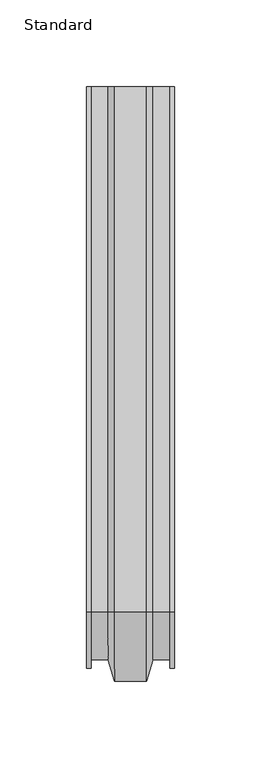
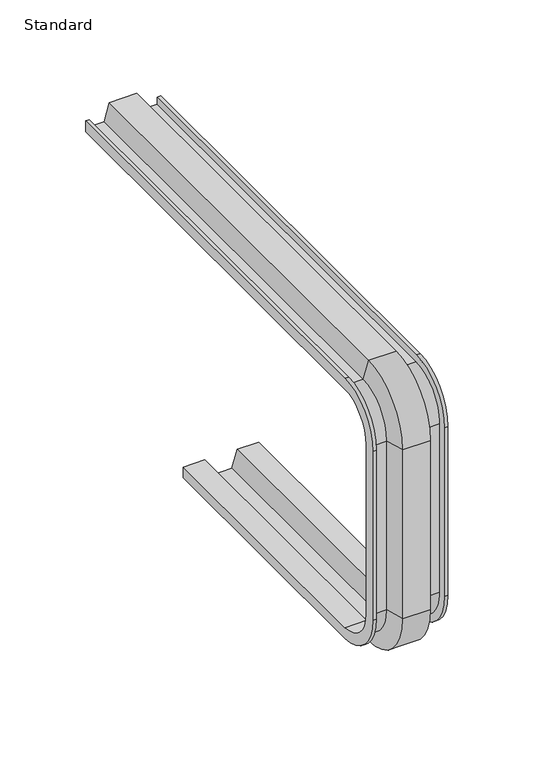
"""IFC4 building model written with IfcOpenShell, lengths in millimetres: electric appliance geometry, Bracket-C-Cablofil-Standard : Standard."""

from ifc_helpers import new_model, si_unit, frame, origin, place, context, project, spatial, polyline, circle_curve, source, transform, mapped, element, save
from ifc_brep_helpers import plane_surface, cylinder_surface, revolved_surface, advanced_brep


def standard_b028e5ef(model_context):
    return source(origin(), model_context, "Body", "AdvancedBrep", [
        advanced_brep(
        [(-25.4, 57.15, -170.053), (-10.9449608, 57.15, -170.053), (-7.3761277, 57.15, -182.499), (7.3761277, 57.15, -182.499), (10.9449608, 57.15, -170.053), (25.4, 57.15, -170.053), (25.4, 57.15, -177.673), (22.86, 57.15, -177.673), (22.86, 57.15, -172.593), (12.8589881, 57.15, -172.593), (9.290155, 57.15, -185.039), (-9.290155, 57.15, -185.039), (-12.8589881, 57.15, -172.593), (-22.86, 57.15, -172.593), (-22.86, 57.15, -177.673), (-25.4, 57.15, -177.673), (-25.4, 171.45, 0.0), (-25.4, 171.45, 7.62), (-22.86, 171.45, 7.62), (-22.86, 171.45, 2.54), (-12.8589881, 171.45, 2.54), (-9.290155, 171.45, 14.986), (9.290155, 171.45, 14.986), (12.8589881, 171.45, 2.54), (22.86, 171.45, 2.54), (22.86, 171.45, 7.62), (25.4, 171.45, 7.62), (25.4, 171.45, 0.0), (10.9449608, 171.45, 0.0), (7.3761277, 171.45, 12.446), (-7.3761277, 171.45, 12.446), (-10.9449608, 171.45, 0.0), (-25.4, -131.5836499, -170.053), (-10.9449608, -131.5836499, -170.053), (-7.3761277, -131.5836499, -182.499), (7.3761277, -131.5836499, -182.499), (10.9449608, -131.5836499, -170.053), (25.4, -131.5836499, -170.053), (25.4, -156.464, -145.1726499), (25.4, -156.464, -24.8803501), (25.4, -131.5836499, 0.0), (25.4, -131.5836499, 7.62), (25.4, -164.084, -24.8803501), (25.4, -164.084, -145.1726499), (25.4, -131.5836499, -177.673), (22.86, -131.5836499, -177.673), (22.86, -164.084, -145.1726499), (22.86, -164.084, -24.8803501), (22.86, -131.5836499, 7.62), (22.86, -131.5836499, 2.54), (22.86, -159.004, -24.8803501), (22.86, -159.004, -145.1726499), (22.86, -131.5836499, -172.593), (12.8589881, -131.5836499, -172.593), (9.290155, -131.5836499, -185.039), (-9.290155, -131.5836499, -185.039), (-12.8589881, -131.5836499, -172.593), (-22.86, -131.5836499, -172.593), (-22.86, -159.004, -145.1726499), (-22.86, -159.004, -24.8803501), (-22.86, -131.5836499, 2.54), (-22.86, -131.5836499, 7.62), (-22.86, -164.084, -24.8803501), (-22.86, -164.084, -145.1726499), (-22.86, -131.5836499, -177.673), (-25.4, -131.5836499, -177.673), (-25.4, -164.084, -145.1726499), (-25.4, -164.084, -24.8803501), (-25.4, -131.5836499, 7.62), (-25.4, -131.5836499, 0.0), (-25.4, -156.464, -24.8803501), (-25.4, -156.464, -145.1726499), (-10.9449608, -156.464, -145.1726499), (-7.3761277, -168.91, -145.1726499), (7.3761277, -168.91, -145.1726499), (10.9449608, -156.464, -145.1726499), (12.8589881, -159.004, -145.1726499), (9.290155, -171.45, -145.1726499), (-9.290155, -171.45, -145.1726499), (-12.8589881, -159.004, -145.1726499), (-10.9449608, -156.464, -24.8803501), (-7.3761277, -168.91, -24.8803501), (7.3761277, -168.91, -24.8803501), (10.9449608, -156.464, -24.8803501), (12.8589881, -159.004, -24.8803501), (9.290155, -171.45, -24.8803501), (-9.290155, -171.45, -24.8803501), (-12.8589881, -159.004, -24.8803501), (-10.9449608, -131.5836499, 0.0), (-7.3761277, -131.5836499, 12.446), (7.3761277, -131.5836499, 12.446), (10.9449608, -131.5836499, 0.0), (12.8589881, -131.5836499, 2.54), (9.290155, -131.5836499, 14.986), (-9.290155, -131.5836499, 14.986), (-12.8589881, -131.5836499, 2.54)],
        [
            (0, 1),
            (1, 2),
            (2, 3),
            (3, 4),
            (4, 5),
            (5, 6),
            (6, 7),
            (7, 8),
            (8, 9),
            (9, 10),
            (10, 11),
            (11, 12),
            (12, 13),
            (13, 14),
            (14, 15),
            (15, 0),
            (16, 17),
            (17, 18),
            (18, 19),
            (19, 20),
            (20, 21),
            (21, 22),
            (22, 23),
            (23, 24),
            (24, 25),
            (25, 26),
            (26, 27),
            (27, 28),
            (28, 29),
            (29, 30),
            (30, 31),
            (31, 16),
            (0, 32),
            (32, 33),
            (33, 1),
            (33, 34),
            (34, 2),
            (34, 35),
            (35, 3),
            (35, 36),
            (36, 4),
            (36, 37),
            (37, 5),
            (37, 38, circle_curve(frame((25.4, -131.5836499, -145.1726499), z_axis=(-1.0, 0.0, 0.0), x_axis=(0.0, 0.0, -1.0)), 24.8803501)),
            (38, 39),
            (39, 40, circle_curve(frame((25.4, -131.5836499, -24.8803501), z_axis=(-1.0, 0.0, 0.0), x_axis=(0.0, -1.0, 0.0)), 24.8803501)),
            (40, 27),
            (26, 41),
            (41, 42, circle_curve(frame((25.4, -131.5836499, -24.8803501), z_axis=(1.0, 0.0, 0.0), x_axis=(0.0, -1.0, 0.0)), 32.5003501)),
            (42, 43),
            (43, 44, circle_curve(frame((25.4, -131.5836499, -145.1726499), z_axis=(1.0, 0.0, 0.0), x_axis=(0.0, 0.0, -1.0)), 32.5003501)),
            (44, 6),
            (44, 45),
            (45, 7),
            (45, 46, circle_curve(frame((22.86, -131.5836499, -145.1726499), z_axis=(-1.0, 0.0, 0.0), x_axis=(0.0, 0.0, -1.0)), 32.5003501)),
            (46, 47),
            (47, 48, circle_curve(frame((22.86, -131.5836499, -24.8803501), z_axis=(-1.0, 0.0, 0.0), x_axis=(0.0, -1.0, 0.0)), 32.5003501)),
            (48, 25),
            (24, 49),
            (49, 50, circle_curve(frame((22.86, -131.5836499, -24.8803501), z_axis=(1.0, 0.0, 0.0), x_axis=(0.0, -1.0, 0.0)), 27.4203501)),
            (50, 51),
            (51, 52, circle_curve(frame((22.86, -131.5836499, -145.1726499), z_axis=(1.0, 0.0, 0.0), x_axis=(0.0, 0.0, -1.0)), 27.4203501)),
            (52, 8),
            (52, 53),
            (53, 9),
            (53, 54),
            (54, 10),
            (54, 55),
            (55, 11),
            (55, 56),
            (56, 12),
            (56, 57),
            (57, 13),
            (57, 58, circle_curve(frame((-22.86, -131.5836499, -145.1726499), z_axis=(-1.0, 0.0, 0.0), x_axis=(0.0, 0.0, -1.0)), 27.4203501)),
            (58, 59),
            (59, 60, circle_curve(frame((-22.86, -131.5836499, -24.8803501), z_axis=(-1.0, 0.0, 0.0), x_axis=(0.0, -1.0, 0.0)), 27.4203501)),
            (60, 19),
            (18, 61),
            (61, 62, circle_curve(frame((-22.86, -131.5836499, -24.8803501), z_axis=(1.0, 0.0, 0.0), x_axis=(0.0, -1.0, 0.0)), 32.5003501)),
            (62, 63),
            (63, 64, circle_curve(frame((-22.86, -131.5836499, -145.1726499), z_axis=(1.0, 0.0, 0.0), x_axis=(0.0, 0.0, -1.0)), 32.5003501)),
            (64, 14),
            (64, 65),
            (65, 15),
            (65, 66, circle_curve(frame((-25.4, -131.5836499, -145.1726499), z_axis=(-1.0, 0.0, 0.0), x_axis=(0.0, 0.0, -1.0)), 32.5003501)),
            (66, 67),
            (67, 68, circle_curve(frame((-25.4, -131.5836499, -24.8803501), z_axis=(-1.0, 0.0, 0.0), x_axis=(0.0, -1.0, 0.0)), 32.5003501)),
            (68, 17),
            (16, 69),
            (69, 70, circle_curve(frame((-25.4, -131.5836499, -24.8803501), z_axis=(1.0, 0.0, 0.0), x_axis=(0.0, -1.0, 0.0)), 24.8803501)),
            (70, 71),
            (71, 32, circle_curve(frame((-25.4, -131.5836499, -145.1726499), z_axis=(1.0, 0.0, 0.0), x_axis=(0.0, 0.0, -1.0)), 24.8803501)),
            (72, 33, circle_curve(frame((-10.9449608, -131.5836499, -145.1726499), z_axis=(1.0, 0.0, 0.0), x_axis=(0.0, 0.0, -1.0)), 24.8803501)),
            (71, 72),
            (73, 34, circle_curve(frame((-7.3761277, -131.5836499, -145.1726499), z_axis=(1.0, 0.0, 0.0), x_axis=(0.0, 0.0, -1.0)), 37.3263501)),
            (72, 73),
            (74, 35, circle_curve(frame((7.3761277, -131.5836499, -145.1726499), z_axis=(1.0, 0.0, 0.0), x_axis=(0.0, 0.0, -1.0)), 37.3263501)),
            (73, 74),
            (75, 36, circle_curve(frame((10.9449608, -131.5836499, -145.1726499), z_axis=(1.0, 0.0, 0.0), x_axis=(0.0, 0.0, -1.0)), 24.8803501)),
            (74, 75),
            (75, 38),
            (43, 46),
            (76, 53, circle_curve(frame((12.8589881, -131.5836499, -145.1726499), z_axis=(1.0, 0.0, 0.0), x_axis=(0.0, 0.0, -1.0)), 27.4203501)),
            (51, 76),
            (77, 54, circle_curve(frame((9.290155, -131.5836499, -145.1726499), z_axis=(1.0, 0.0, 0.0), x_axis=(0.0, 0.0, -1.0)), 39.8663501)),
            (76, 77),
            (78, 55, circle_curve(frame((-9.290155, -131.5836499, -145.1726499), z_axis=(1.0, 0.0, 0.0), x_axis=(0.0, 0.0, -1.0)), 39.8663501)),
            (77, 78),
            (79, 56, circle_curve(frame((-12.8589881, -131.5836499, -145.1726499), z_axis=(1.0, 0.0, 0.0), x_axis=(0.0, 0.0, -1.0)), 27.4203501)),
            (78, 79),
            (79, 58),
            (63, 66),
            (70, 80),
            (80, 72),
            (80, 81),
            (81, 73),
            (81, 82),
            (82, 74),
            (82, 83),
            (83, 75),
            (83, 39),
            (42, 47),
            (50, 84),
            (84, 76),
            (84, 85),
            (85, 77),
            (85, 86),
            (86, 78),
            (86, 87),
            (87, 79),
            (87, 59),
            (62, 67),
            (88, 80, circle_curve(frame((-10.9449608, -131.5836499, -24.8803501), z_axis=(1.0, 0.0, 0.0), x_axis=(0.0, -1.0, 0.0)), 24.8803501)),
            (69, 88),
            (89, 81, circle_curve(frame((-7.3761277, -131.5836499, -24.8803501), z_axis=(1.0, 0.0, 0.0), x_axis=(0.0, -1.0, 0.0)), 37.3263501)),
            (88, 89),
            (90, 82, circle_curve(frame((7.3761277, -131.5836499, -24.8803501), z_axis=(1.0, 0.0, 0.0), x_axis=(0.0, -1.0, 0.0)), 37.3263501)),
            (89, 90),
            (91, 83, circle_curve(frame((10.9449608, -131.5836499, -24.8803501), z_axis=(1.0, 0.0, 0.0), x_axis=(0.0, -1.0, 0.0)), 24.8803501)),
            (90, 91),
            (91, 40),
            (41, 48),
            (92, 84, circle_curve(frame((12.8589881, -131.5836499, -24.8803501), z_axis=(1.0, 0.0, 0.0), x_axis=(0.0, -1.0, 0.0)), 27.4203501)),
            (49, 92),
            (93, 85, circle_curve(frame((9.290155, -131.5836499, -24.8803501), z_axis=(1.0, 0.0, 0.0), x_axis=(0.0, -1.0, 0.0)), 39.8663501)),
            (92, 93),
            (94, 86, circle_curve(frame((-9.290155, -131.5836499, -24.8803501), z_axis=(1.0, 0.0, 0.0), x_axis=(0.0, -1.0, 0.0)), 39.8663501)),
            (93, 94),
            (95, 87, circle_curve(frame((-12.8589881, -131.5836499, -24.8803501), z_axis=(1.0, 0.0, 0.0), x_axis=(0.0, -1.0, 0.0)), 27.4203501)),
            (94, 95),
            (95, 60),
            (61, 68),
            (31, 88),
            (30, 89),
            (29, 90),
            (28, 91),
            (23, 92),
            (22, 93),
            (21, 94),
            (20, 95),
        ],
        [
            plane_surface(frame((0.0, 57.15, -185.039), z_axis=(0.0, 1.0, 0.0), x_axis=(1.0, 0.0, 0.0))),
            plane_surface(frame((0.0, 171.45, 14.986), z_axis=(0.0, 1.0, 0.0), x_axis=(1.0, 0.0, 0.0))),
            plane_surface(frame((-25.4, 57.15, -170.053), z_axis=(0.0, 0.0, 1.0), x_axis=(0.0, -1.0, 0.0))),
            plane_surface(frame((-10.9449608, 57.15, -170.053), z_axis=(0.9612616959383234, 0.0, 0.2756373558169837), x_axis=(0.0, -1.0, 0.0))),
            plane_surface(frame((-7.3761277, 57.15, -182.499), z_axis=(0.0, 0.0, 1.0), x_axis=(0.0, -1.0, 0.0))),
            plane_surface(frame((7.3761277, 57.15, -182.499), z_axis=(-0.9612616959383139, 0.0, 0.2756373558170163), x_axis=(0.0, -1.0, 0.0))),
            plane_surface(frame((10.9449608, 57.15, -170.053), z_axis=(0.0, 0.0, 1.0), x_axis=(0.0, -1.0, 0.0))),
            plane_surface(frame((25.4, 57.15, -170.053), z_axis=(1.0, 0.0, 0.0), x_axis=(0.0, -1.0, 0.0))),
            plane_surface(frame((25.4, 57.15, -177.673), z_axis=(0.0, 0.0, -1.0), x_axis=(0.0, -1.0, 0.0))),
            plane_surface(frame((22.86, 57.15, -177.673), z_axis=(-1.0, 0.0, 0.0), x_axis=(0.0, -1.0, 0.0))),
            plane_surface(frame((22.86, 57.15, -172.593), z_axis=(0.0, 0.0, -1.0), x_axis=(0.0, -1.0, 0.0))),
            plane_surface(frame((12.8589881, 57.15, -172.593), z_axis=(0.9612616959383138, 0.0, -0.27563735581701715), x_axis=(0.0, -1.0, 0.0))),
            plane_surface(frame((9.290155, 57.15, -185.039), z_axis=(0.0, 0.0, -1.0), x_axis=(0.0, -1.0, 0.0))),
            plane_surface(frame((-9.290155, 57.15, -185.039), z_axis=(-0.9612616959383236, 0.0, -0.27563735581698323), x_axis=(0.0, -1.0, 0.0))),
            plane_surface(frame((-12.8589881, 57.15, -172.593), z_axis=(0.0, 0.0, -1.0), x_axis=(0.0, -1.0, 0.0))),
            plane_surface(frame((-22.86, 57.15, -172.593), z_axis=(1.0, 0.0, 0.0), x_axis=(0.0, -1.0, 0.0))),
            plane_surface(frame((-22.86, 57.15, -177.673), z_axis=(0.0, 0.0, -1.0), x_axis=(0.0, -1.0, 0.0))),
            plane_surface(frame((-25.4, 57.15, -177.673), z_axis=(-1.0, 0.0, 0.0), x_axis=(0.0, -1.0, 0.0))),
            revolved_surface(polyline([(-25.4, -131.5836499, -170.053), (-10.9449608, -131.5836499, -170.053)]), (0.0, -131.5836499, -145.1726499), (-1.0, 0.0, 0.0)),
            revolved_surface(polyline([(-10.9449608, -131.5836499, -170.053), (-7.3761277, -131.5836499, -182.499)]), (0.0, -131.5836499, -145.1726499), (-1.0, 0.0, 0.0)),
            revolved_surface(polyline([(-7.3761277, -131.5836499, -182.49900000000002), (7.3761277, -131.5836499, -182.49900000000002)]), (0.0, -131.5836499, -145.1726499), (-1.0, 0.0, 0.0)),
            revolved_surface(polyline([(7.3761277, -131.5836499, -182.499), (10.9449608, -131.5836499, -170.053)]), (0.0, -131.5836499, -145.1726499), (-1.0, 0.0, 0.0)),
            revolved_surface(polyline([(10.9449608, -131.5836499, -170.053), (25.4, -131.5836499, -170.053)]), (0.0, -131.5836499, -145.1726499), (-1.0, 0.0, 0.0)),
            cylinder_surface(frame((0.0, -131.5836499, -145.1726499), z_axis=(-1.0, 0.0, 0.0), x_axis=(0.0, 0.0, -1.0)), 32.5003501),
            cylinder_surface(frame((0.0, -131.5836499, -145.1726499), z_axis=(-1.0, 0.0, 0.0), x_axis=(0.0, 0.0, -1.0)), 27.4203501),
            revolved_surface(polyline([(12.8589881, -131.5836499, -172.593), (9.290155, -131.5836499, -185.039)]), (0.0, -131.5836499, -145.1726499), (-1.0, 0.0, 0.0)),
            cylinder_surface(frame((0.0, -131.5836499, -145.1726499), z_axis=(-1.0, 0.0, 0.0), x_axis=(0.0, 0.0, -1.0)), 39.8663501),
            revolved_surface(polyline([(-9.290155, -131.5836499, -185.039), (-12.8589881, -131.5836499, -172.593)]), (0.0, -131.5836499, -145.1726499), (-1.0, 0.0, 0.0)),
            plane_surface(frame((-25.4, -156.464, -145.1726499), z_axis=(0.0, 1.0, 0.0), x_axis=(0.0, 0.0, 1.0))),
            plane_surface(frame((-10.9449608, -156.464, -145.1726499), z_axis=(0.9612616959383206, 0.27563735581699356, 0.0), x_axis=(0.0, 0.0, 1.0))),
            plane_surface(frame((-7.3761277, -168.91, -145.1726499), z_axis=(0.0, 1.0, 0.0), x_axis=(0.0, 0.0, 1.0))),
            plane_surface(frame((7.3761277, -168.91, -145.1726499), z_axis=(-0.9612616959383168, 0.27563735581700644, 0.0), x_axis=(0.0, 0.0, 1.0))),
            plane_surface(frame((10.9449608, -156.464, -145.1726499), z_axis=(0.0, 1.0, 0.0), x_axis=(0.0, 0.0, 1.0))),
            plane_surface(frame((25.4, -164.084, -145.1726499), z_axis=(0.0, -1.0, 0.0), x_axis=(0.0, 0.0, 1.0))),
            plane_surface(frame((22.86, -159.004, -145.1726499), z_axis=(0.0, -1.0, 0.0), x_axis=(0.0, 0.0, 1.0))),
            plane_surface(frame((12.8589881, -159.004, -145.1726499), z_axis=(0.9612616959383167, -0.27563735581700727, 0.0), x_axis=(0.0, 0.0, 1.0))),
            plane_surface(frame((9.290155, -171.45, -145.1726499), z_axis=(0.0, -1.0, 0.0), x_axis=(0.0, 0.0, 1.0))),
            plane_surface(frame((-9.290155, -171.45, -145.1726499), z_axis=(-0.9612616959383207, -0.2756373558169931, 0.0), x_axis=(0.0, 0.0, 1.0))),
            plane_surface(frame((-12.8589881, -159.004, -145.1726499), z_axis=(0.0, -1.0, 0.0), x_axis=(0.0, 0.0, 1.0))),
            plane_surface(frame((-22.86, -164.084, -145.1726499), z_axis=(0.0, -1.0, 0.0), x_axis=(0.0, 0.0, 1.0))),
            revolved_surface(polyline([(-25.4, -156.464, -24.8803501), (-10.9449608, -156.464, -24.8803501)]), (0.0, -131.5836499, -24.8803501), (-1.0, 0.0, 0.0)),
            revolved_surface(polyline([(-10.9449608, -156.464, -24.8803501), (-7.3761277, -168.91, -24.8803501)]), (0.0, -131.5836499, -24.8803501), (-1.0, 0.0, 0.0)),
            revolved_surface(polyline([(-7.3761277, -168.91000000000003, -24.8803501), (7.3761277, -168.91000000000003, -24.8803501)]), (0.0, -131.5836499, -24.8803501), (-1.0, 0.0, 0.0)),
            revolved_surface(polyline([(7.3761277, -168.91, -24.8803501), (10.9449608, -156.464, -24.8803501)]), (0.0, -131.5836499, -24.8803501), (-1.0, 0.0, 0.0)),
            revolved_surface(polyline([(10.9449608, -156.464, -24.8803501), (25.4, -156.464, -24.8803501)]), (0.0, -131.5836499, -24.8803501), (-1.0, 0.0, 0.0)),
            cylinder_surface(frame((0.0, -131.5836499, -24.8803501), z_axis=(-1.0, 0.0, 0.0), x_axis=(0.0, -1.0, 0.0)), 32.5003501),
            cylinder_surface(frame((0.0, -131.5836499, -24.8803501), z_axis=(-1.0, 0.0, 0.0), x_axis=(0.0, -1.0, 0.0)), 27.4203501),
            revolved_surface(polyline([(12.8589881, -159.004, -24.8803501), (9.290155, -171.45, -24.8803501)]), (0.0, -131.5836499, -24.8803501), (-1.0, 0.0, 0.0)),
            cylinder_surface(frame((0.0, -131.5836499, -24.8803501), z_axis=(-1.0, 0.0, 0.0), x_axis=(0.0, -1.0, 0.0)), 39.8663501),
            revolved_surface(polyline([(-9.290155, -171.45, -24.8803501), (-12.8589881, -159.004, -24.8803501)]), (0.0, -131.5836499, -24.8803501), (-1.0, 0.0, 0.0)),
            plane_surface(frame((-25.4, -131.5836499, 0.0), z_axis=(0.0, 0.0, -1.0), x_axis=(0.0, 1.0, 0.0))),
            plane_surface(frame((-10.9449608, -131.5836499, 0.0), z_axis=(0.9612616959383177, 0.0, -0.27563735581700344), x_axis=(0.0, 1.0, 0.0))),
            plane_surface(frame((-7.3761277, -131.5836499, 12.446), z_axis=(0.0, 0.0, -1.0), x_axis=(0.0, 1.0, 0.0))),
            plane_surface(frame((7.3761277, -131.5836499, 12.446), z_axis=(-0.9612616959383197, 0.0, -0.27563735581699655), x_axis=(0.0, 1.0, 0.0))),
            plane_surface(frame((10.9449608, -131.5836499, 0.0), z_axis=(0.0, 0.0, -1.0), x_axis=(0.0, 1.0, 0.0))),
            plane_surface(frame((25.4, -131.5836499, 7.62), z_axis=(0.0, 0.0, 1.0), x_axis=(0.0, 1.0, 0.0))),
            plane_surface(frame((22.86, -131.5836499, 2.54), z_axis=(0.0, 0.0, 1.0), x_axis=(0.0, 1.0, 0.0))),
            plane_surface(frame((12.8589881, -131.5836499, 2.54), z_axis=(0.9612616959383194, 0.0, 0.2756373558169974), x_axis=(0.0, 1.0, 0.0))),
            plane_surface(frame((9.290155, -131.5836499, 14.986), z_axis=(0.0, 0.0, 1.0), x_axis=(0.0, 1.0, 0.0))),
            plane_surface(frame((-9.290155, -131.5836499, 14.986), z_axis=(-0.9612616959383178, 0.0, 0.275637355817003), x_axis=(0.0, 1.0, 0.0))),
            plane_surface(frame((-12.8589881, -131.5836499, 2.54), z_axis=(0.0, 0.0, 1.0), x_axis=(0.0, 1.0, 0.0))),
            plane_surface(frame((-22.86, -131.5836499, 7.62), z_axis=(0.0, 0.0, 1.0), x_axis=(0.0, 1.0, 0.0))),
        ],
        [
            (0, [[1, 2, 3, 4, 5, 6, 7, 8, 9, 10, 11, 12, 13, 14, 15, 16]]),
            (1, [[17, 18, 19, 20, 21, 22, 23, 24, 25, 26, 27, 28, 29, 30, 31, 32]]),
            (2, [[-1, 33, 34, 35]]),
            (3, [[-2, -35, 36, 37]]),
            (4, [[-3, -37, 38, 39]]),
            (5, [[-4, -39, 40, 41]]),
            (6, [[-5, -41, 42, 43]]),
            (7, [[-6, -43, 44, 45, 46, 47, -27, 48, 49, 50, 51, 52]]),
            (8, [[-7, -52, 53, 54]]),
            (9, [[-8, -54, 55, 56, 57, 58, -25, 59, 60, 61, 62, 63]]),
            (10, [[-9, -63, 64, 65]]),
            (11, [[-10, -65, 66, 67]]),
            (12, [[-11, -67, 68, 69]]),
            (13, [[-12, -69, 70, 71]]),
            (14, [[-13, -71, 72, 73]]),
            (15, [[-14, -73, 74, 75, 76, 77, -19, 78, 79, 80, 81, 82]]),
            (16, [[-15, -82, 83, 84]]),
            (17, [[-16, -84, 85, 86, 87, 88, -17, 89, 90, 91, 92, -33]]),
            (18, [[93, -34, -92, 94]]),
            (19, [[95, -36, -93, 96]]),
            (20, [[97, -38, -95, 98]]),
            (21, [[99, -40, -97, 100]]),
            (22, [[-44, -42, -99, 101]]),
            (23, [[-55, -53, -51, 102]]),
            (24, [[103, -64, -62, 104]]),
            (25, [[105, -66, -103, 106]]),
            (26, [[107, -68, -105, 108]]),
            (27, [[109, -70, -107, 110]]),
            (24, [[-74, -72, -109, 111]]),
            (23, [[-85, -83, -81, 112]]),
            (28, [[-94, -91, 113, 114]]),
            (29, [[-96, -114, 115, 116]]),
            (30, [[-98, -116, 117, 118]]),
            (31, [[-100, -118, 119, 120]]),
            (32, [[-101, -120, 121, -45]]),
            (33, [[-102, -50, 122, -56]]),
            (34, [[-104, -61, 123, 124]]),
            (35, [[-106, -124, 125, 126]]),
            (36, [[-108, -126, 127, 128]]),
            (37, [[-110, -128, 129, 130]]),
            (38, [[-111, -130, 131, -75]]),
            (39, [[-112, -80, 132, -86]]),
            (40, [[133, -113, -90, 134]]),
            (41, [[135, -115, -133, 136]]),
            (42, [[137, -117, -135, 138]]),
            (43, [[139, -119, -137, 140]]),
            (44, [[-46, -121, -139, 141]]),
            (45, [[-57, -122, -49, 142]]),
            (46, [[143, -123, -60, 144]]),
            (47, [[145, -125, -143, 146]]),
            (48, [[147, -127, -145, 148]]),
            (49, [[149, -129, -147, 150]]),
            (46, [[-76, -131, -149, 151]]),
            (45, [[-87, -132, -79, 152]]),
            (50, [[-134, -89, -32, 153]]),
            (51, [[-136, -153, -31, 154]]),
            (52, [[-138, -154, -30, 155]]),
            (53, [[-140, -155, -29, 156]]),
            (54, [[-141, -156, -28, -47]]),
            (55, [[-142, -48, -26, -58]]),
            (56, [[-144, -59, -24, 157]]),
            (57, [[-146, -157, -23, 158]]),
            (58, [[-148, -158, -22, 159]]),
            (59, [[-150, -159, -21, 160]]),
            (60, [[-151, -160, -20, -77]]),
            (61, [[-152, -78, -18, -88]]),
        ],
    ),
    ])


if __name__ == "__main__":
    model = new_model("IFC4")
    model_context = context("Model", 3, world=origin())
    ifc_project = project(units=[si_unit("LENGTHUNIT", "METRE", prefix="MILLI")], contexts=[model_context])
    site = spatial("IfcSite", under=ifc_project)
    building = spatial("IfcBuilding", under=site)
    placement = place(None, origin())
    standard_shape = standard_b028e5ef(model_context)
    element("IfcElectricAppliance", 1, ObjectType="Bracket-C-Cablofil-Standard : Standard", at=placement, inside=building, context=model_context, shape_type="MappedRepresentation", body=[
        mapped(standard_shape, transform((0.0, 0.0, 0.0), x_axis=(1.0, 0.0, 0.0), y_axis=(0.0, 1.0, 0.0), z_axis=(0.0, 0.0, 1.0))),
    ])
    save(model, "model.ifc")
